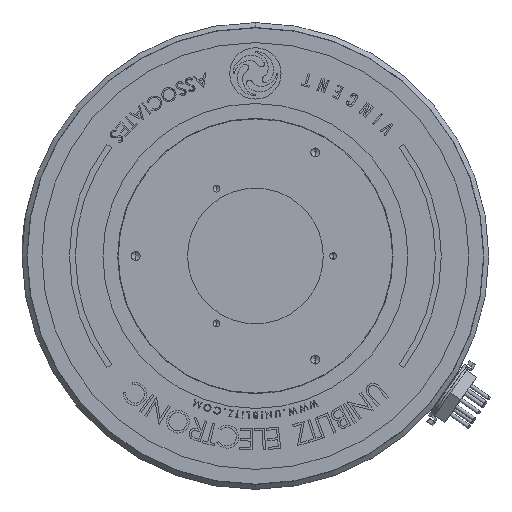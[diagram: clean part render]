
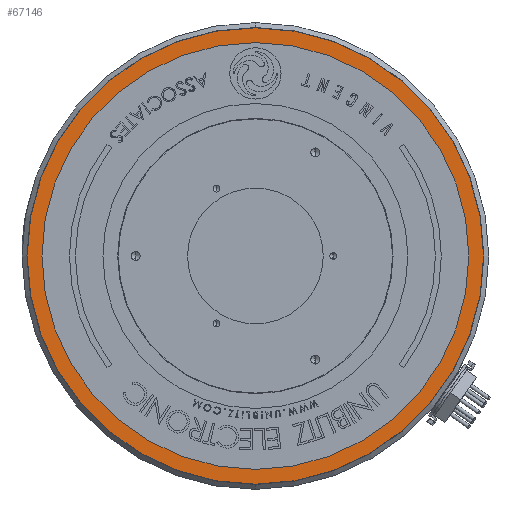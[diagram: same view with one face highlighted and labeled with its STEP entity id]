
A CAD part, front view. The second image highlights one B-rep face of the part: STEP entity #67146.
In plain terms, the highlighted planar face has unit normal (0, -1, 0).
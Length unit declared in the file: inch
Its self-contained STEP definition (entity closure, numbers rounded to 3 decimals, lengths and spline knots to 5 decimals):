
#3274 = DIRECTION ( 'NONE',  ( -1., 0., 0. ) ) ;
#3276 = DIRECTION ( 'NONE',  ( 0., -1., 0. ) ) ;
#3278 = CARTESIAN_POINT ( 'NONE',  ( 0., -0.631, 0. ) ) ;
#3297 = AXIS2_PLACEMENT_3D ( 'NONE', #3278, #3276, #3274 ) ;
#3311 = CIRCLE ( 'NONE', #3297, 2.3125 ) ;
#9219 = CARTESIAN_POINT ( 'NONE',  ( 2.3125, -0.631, 0. ) ) ;
#9439 = CARTESIAN_POINT ( 'NONE',  ( -2.3125, -0.631, 0. ) ) ;
#9612 = DIRECTION ( 'NONE',  ( -1., 0., 0. ) ) ;
#9616 = DIRECTION ( 'NONE',  ( 0., -1., 0. ) ) ;
#9618 = CARTESIAN_POINT ( 'NONE',  ( 0., -0.631, 0. ) ) ;
#9619 = AXIS2_PLACEMENT_3D ( 'NONE', #9618, #9616, #9612 ) ;
#9620 = CIRCLE ( 'NONE', #9619, 2.1625 ) ;
#33817 = VERTEX_POINT ( 'NONE', #49697 ) ;
#33818 = VERTEX_POINT ( 'NONE', #49564 ) ;
#33868 = VERTEX_POINT ( 'NONE', #9219 ) ;
#33879 = VERTEX_POINT ( 'NONE', #9439 ) ;
#33898 = EDGE_CURVE ( 'NONE', #33817, #33818, #9620, .T. ) ;
#33923 = EDGE_CURVE ( 'NONE', #33879, #33868, #49936, .T. ) ;
#44285 = EDGE_CURVE ( 'NONE', #33868, #33879, #3311, .T. ) ;
#49564 = CARTESIAN_POINT ( 'NONE',  ( 2.1625, -0.631, 0. ) ) ;
#49697 = CARTESIAN_POINT ( 'NONE',  ( -2.1625, -0.631, 0. ) ) ;
#49936 = CIRCLE ( 'NONE', #49945, 2.3125 ) ;
#49945 = AXIS2_PLACEMENT_3D ( 'NONE', #50038, #50036, #50035 ) ;
#50035 = DIRECTION ( 'NONE',  ( -1., 0., 0. ) ) ;
#50036 = DIRECTION ( 'NONE',  ( 0., -1., 0. ) ) ;
#50038 = CARTESIAN_POINT ( 'NONE',  ( 0., -0.631, 0. ) ) ;
#62233 = FACE_OUTER_BOUND ( 'NONE', #67145, .T. ) ;
#62465 = FACE_BOUND ( 'NONE', #67175, .T. ) ;
#62512 = DIRECTION ( 'NONE',  ( -1., 0., 0. ) ) ;
#62513 = DIRECTION ( 'NONE',  ( 0., -1., 0. ) ) ;
#62514 = CARTESIAN_POINT ( 'NONE',  ( 0., -0.631, 0. ) ) ;
#62515 = AXIS2_PLACEMENT_3D ( 'NONE', #62514, #62513, #62512 ) ;
#62518 = CIRCLE ( 'NONE', #62586, 2.1625 ) ;
#62523 = CARTESIAN_POINT ( 'NONE',  ( 0., -0.631, 0. ) ) ;
#62524 = PLANE ( 'NONE',  #62515 ) ;
#62584 = DIRECTION ( 'NONE',  ( -1., 0., 0. ) ) ;
#62585 = DIRECTION ( 'NONE',  ( 0., -1., 0. ) ) ;
#62586 = AXIS2_PLACEMENT_3D ( 'NONE', #62523, #62585, #62584 ) ;
#67145 = EDGE_LOOP ( 'NONE', ( #67148, #67147 ) ) ;
#67146 = ADVANCED_FACE ( 'NONE', ( #62465, #62233 ), #62524, .T. ) ;
#67147 = ORIENTED_EDGE ( 'NONE', *, *, #33923, .T. ) ;
#67148 = ORIENTED_EDGE ( 'NONE', *, *, #44285, .T. ) ;
#67160 = EDGE_CURVE ( 'NONE', #33818, #33817, #62518, .T. ) ;
#67165 = ORIENTED_EDGE ( 'NONE', *, *, #67160, .F. ) ;
#67167 = ORIENTED_EDGE ( 'NONE', *, *, #33898, .F. ) ;
#67175 = EDGE_LOOP ( 'NONE', ( #67167, #67165 ) ) ;
